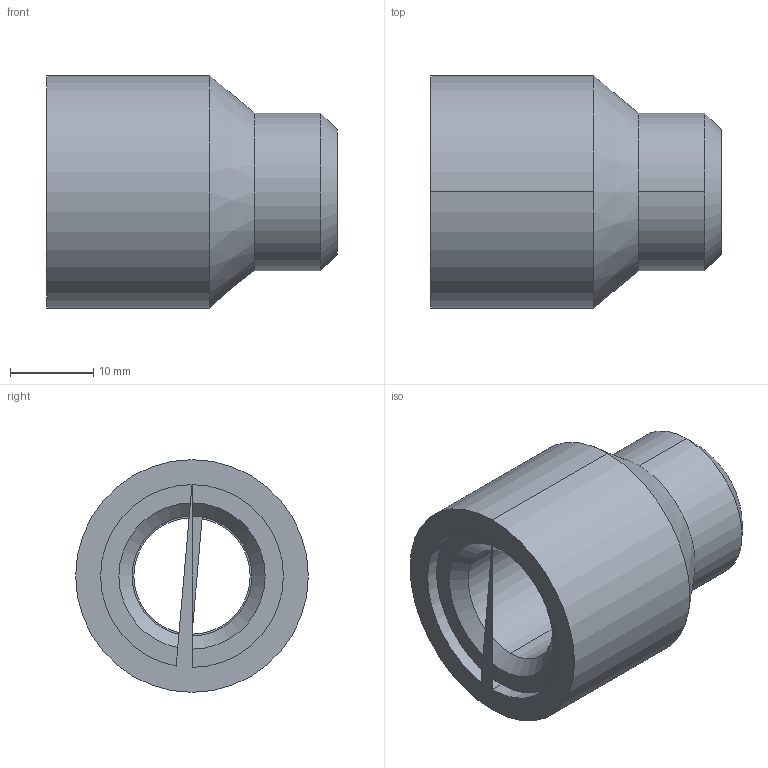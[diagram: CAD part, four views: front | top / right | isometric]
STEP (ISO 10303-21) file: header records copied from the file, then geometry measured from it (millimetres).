
FILE_DESCRIPTION(('TFLEX Exchange Step'),'2;1');
FILE_NAME('X2\0411043E0431044B0448043A0430\X0\ БП-М16-М01.stp', '2020-10-07T20:11:26+05:00',('Алексей'),('Unknown organisation'),'TFLEX Exchange 2019.1','T-FLEX CAD','Unknown authorisation');
FILE_SCHEMA( ('AUTOMOTIVE_DESIGN { 1 0 10303 214 1 1 1 1 }') );
Length unit declared in the file: millimetre
Products named in the file (1): Бобышка БП-М16-М01
Bounding box: 35 x 28 x 28 mm (x, y, z)
Volume: 11260.6 mm3; surface area: 4912.4 mm2
Topology: 1 solids, 1 shells, 17 faces, 39 edges, 22 vertices
Faces by surface type: cylinder 10, plane 4, cone 3
Entity records: 507 total; most frequent: DIRECTION 97, CARTESIAN_POINT 79, ORIENTED_EDGE 78, AXIS2_PLACEMENT_3D 40, EDGE_CURVE 39, VERTEX_POINT 22, CIRCLE 22, VECTOR 17
